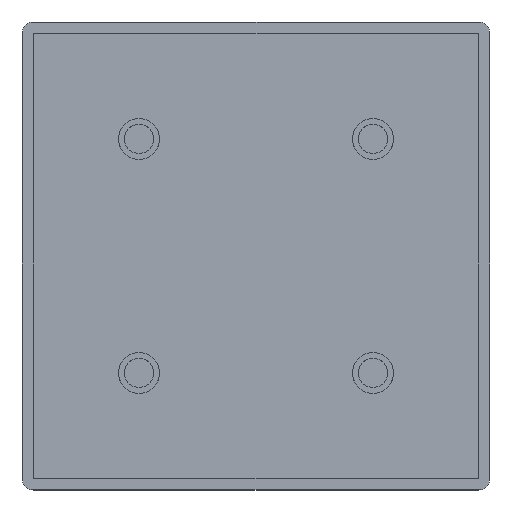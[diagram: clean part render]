
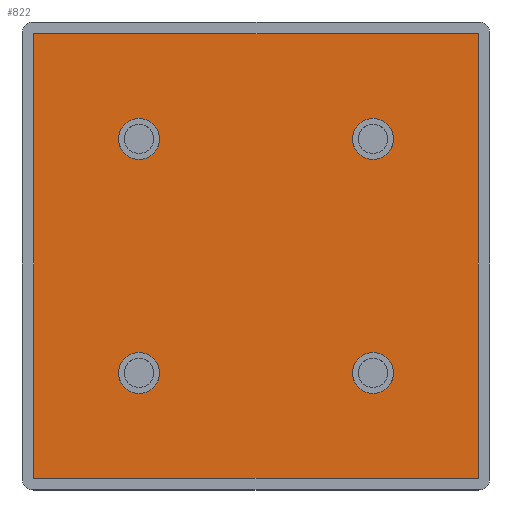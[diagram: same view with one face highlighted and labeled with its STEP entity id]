
A CAD part, top view. The second image highlights one B-rep face of the part: STEP entity #822.
In plain terms, the highlighted planar face has unit normal (0, 0, 1).
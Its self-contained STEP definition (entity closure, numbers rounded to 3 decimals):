
#7 = CIRCLE ( 'NONE', #1311, 3.5 ) ;
#13 = CIRCLE ( 'NONE', #650, 3.5 ) ;
#27 = DIRECTION ( 'NONE',  ( 1., 0., 0. ) ) ;
#31 = EDGE_CURVE ( 'NONE', #1221, #974, #1136, .T. ) ;
#46 = PLANE ( 'NONE',  #355 ) ;
#47 = VERTEX_POINT ( 'NONE', #1252 ) ;
#79 = EDGE_CURVE ( 'NONE', #47, #1043, #227, .T. ) ;
#81 = DIRECTION ( 'NONE',  ( 0., 0., 1. ) ) ;
#90 = ORIENTED_EDGE ( 'NONE', *, *, #950, .F. ) ;
#95 = CARTESIAN_POINT ( 'NONE',  ( -20., 20., 0. ) ) ;
#100 = CARTESIAN_POINT ( 'NONE',  ( -40., -38., 0. ) ) ;
#102 = AXIS2_PLACEMENT_3D ( 'NONE', #173, #534, #402 ) ;
#117 = CIRCLE ( 'NONE', #978, 3.5 ) ;
#145 = EDGE_CURVE ( 'NONE', #849, #571, #1291, .T. ) ;
#157 = VERTEX_POINT ( 'NONE', #840 ) ;
#167 = DIRECTION ( 'NONE',  ( 0., 0., 1. ) ) ;
#173 = CARTESIAN_POINT ( 'NONE',  ( 20., 20., 0. ) ) ;
#175 = ORIENTED_EDGE ( 'NONE', *, *, #79, .F. ) ;
#203 = DIRECTION ( 'NONE',  ( 0., 1., 0. ) ) ;
#227 = CIRCLE ( 'NONE', #102, 3.5 ) ;
#228 = EDGE_LOOP ( 'NONE', ( #956, #90 ) ) ;
#239 = LINE ( 'NONE', #100, #436 ) ;
#243 = EDGE_CURVE ( 'NONE', #1043, #47, #117, .T. ) ;
#250 = EDGE_LOOP ( 'NONE', ( #1270, #175 ) ) ;
#257 = EDGE_LOOP ( 'NONE', ( #747, #757 ) ) ;
#267 = VERTEX_POINT ( 'NONE', #1314 ) ;
#272 = DIRECTION ( 'NONE',  ( 1., 0., 0. ) ) ;
#297 = CARTESIAN_POINT ( 'NONE',  ( 20., -20., 0. ) ) ;
#304 = ORIENTED_EDGE ( 'NONE', *, *, #388, .T. ) ;
#333 = EDGE_CURVE ( 'NONE', #671, #157, #463, .T. ) ;
#335 = CARTESIAN_POINT ( 'NONE',  ( 38., 40., 0. ) ) ;
#355 = AXIS2_PLACEMENT_3D ( 'NONE', #1229, #1095, #952 ) ;
#377 = AXIS2_PLACEMENT_3D ( 'NONE', #95, #1284, #1143 ) ;
#388 = EDGE_CURVE ( 'NONE', #571, #671, #239, .T. ) ;
#402 = DIRECTION ( 'NONE',  ( 1., 0., 0. ) ) ;
#404 = DIRECTION ( 'NONE',  ( 0., 0., 1. ) ) ;
#424 = CARTESIAN_POINT ( 'NONE',  ( -16.5, -20., 0. ) ) ;
#436 = VECTOR ( 'NONE', #1290, 1000. ) ;
#463 = LINE ( 'NONE', #335, #876 ) ;
#495 = DIRECTION ( 'NONE',  ( 1., 0., 0. ) ) ;
#520 = EDGE_LOOP ( 'NONE', ( #1218, #304, #938, #832 ) ) ;
#529 = ORIENTED_EDGE ( 'NONE', *, *, #641, .F. ) ;
#534 = DIRECTION ( 'NONE',  ( 0., 0., 1. ) ) ;
#536 = CARTESIAN_POINT ( 'NONE',  ( 20., -20., 0. ) ) ;
#539 = CARTESIAN_POINT ( 'NONE',  ( -23.5, -20., 0. ) ) ;
#555 = AXIS2_PLACEMENT_3D ( 'NONE', #297, #167, #27 ) ;
#561 = DIRECTION ( 'NONE',  ( 1., 0., 0. ) ) ;
#570 = CARTESIAN_POINT ( 'NONE',  ( 16.5, 20., 0. ) ) ;
#571 = VERTEX_POINT ( 'NONE', #1110 ) ;
#573 = CARTESIAN_POINT ( 'NONE',  ( 38., -38., 0. ) ) ;
#575 = VERTEX_POINT ( 'NONE', #969 ) ;
#607 = DIRECTION ( 'NONE',  ( 0., -1., 0. ) ) ;
#612 = DIRECTION ( 'NONE',  ( -1., 0., 0. ) ) ;
#634 = DIRECTION ( 'NONE',  ( 0., 0., 1. ) ) ;
#641 = EDGE_CURVE ( 'NONE', #974, #1221, #1236, .T. ) ;
#650 = AXIS2_PLACEMENT_3D ( 'NONE', #1018, #81, #1265 ) ;
#655 = AXIS2_PLACEMENT_3D ( 'NONE', #1210, #1075, #930 ) ;
#671 = VERTEX_POINT ( 'NONE', #573 ) ;
#685 = VECTOR ( 'NONE', #612, 1000. ) ;
#696 = DIRECTION ( 'NONE',  ( 0., 0., 1. ) ) ;
#716 = FACE_BOUND ( 'NONE', #1032, .T. ) ;
#733 = VERTEX_POINT ( 'NONE', #539 ) ;
#744 = FACE_OUTER_BOUND ( 'NONE', #520, .T. ) ;
#745 = CARTESIAN_POINT ( 'NONE',  ( -38., 40., 0. ) ) ;
#747 = ORIENTED_EDGE ( 'NONE', *, *, #959, .F. ) ;
#750 = CARTESIAN_POINT ( 'NONE',  ( -40., 38., 0. ) ) ;
#757 = ORIENTED_EDGE ( 'NONE', *, *, #775, .F. ) ;
#763 = EDGE_CURVE ( 'NONE', #157, #849, #881, .T. ) ;
#769 = CARTESIAN_POINT ( 'NONE',  ( -20., 20., 0. ) ) ;
#775 = EDGE_CURVE ( 'NONE', #909, #733, #13, .T. ) ;
#782 = FACE_BOUND ( 'NONE', #257, .T. ) ;
#822 = ADVANCED_FACE ( 'NONE', ( #744, #716, #782, #846, #913 ), #46, .T. ) ;
#826 = CARTESIAN_POINT ( 'NONE',  ( 20., 20., 0. ) ) ;
#832 = ORIENTED_EDGE ( 'NONE', *, *, #763, .T. ) ;
#840 = CARTESIAN_POINT ( 'NONE',  ( 38., 38., 0. ) ) ;
#846 = FACE_BOUND ( 'NONE', #250, .T. ) ;
#849 = VERTEX_POINT ( 'NONE', #1165 ) ;
#876 = VECTOR ( 'NONE', #203, 1000. ) ;
#881 = LINE ( 'NONE', #750, #685 ) ;
#909 = VERTEX_POINT ( 'NONE', #424 ) ;
#913 = FACE_BOUND ( 'NONE', #228, .T. ) ;
#930 = DIRECTION ( 'NONE',  ( 1., 0., 0. ) ) ;
#936 = ORIENTED_EDGE ( 'NONE', *, *, #31, .F. ) ;
#938 = ORIENTED_EDGE ( 'NONE', *, *, #333, .T. ) ;
#950 = EDGE_CURVE ( 'NONE', #267, #575, #1026, .T. ) ;
#952 = DIRECTION ( 'NONE',  ( 1., 0., 0. ) ) ;
#956 = ORIENTED_EDGE ( 'NONE', *, *, #1064, .F. ) ;
#959 = EDGE_CURVE ( 'NONE', #733, #909, #1132, .T. ) ;
#969 = CARTESIAN_POINT ( 'NONE',  ( 16.5, -20., 0. ) ) ;
#974 = VERTEX_POINT ( 'NONE', #1178 ) ;
#978 = AXIS2_PLACEMENT_3D ( 'NONE', #826, #696, #561 ) ;
#1018 = CARTESIAN_POINT ( 'NONE',  ( -20., -20., 0. ) ) ;
#1026 = CIRCLE ( 'NONE', #555, 3.5 ) ;
#1032 = EDGE_LOOP ( 'NONE', ( #529, #936 ) ) ;
#1043 = VERTEX_POINT ( 'NONE', #570 ) ;
#1064 = EDGE_CURVE ( 'NONE', #575, #267, #7, .T. ) ;
#1075 = DIRECTION ( 'NONE',  ( 0., 0., 1. ) ) ;
#1085 = VECTOR ( 'NONE', #607, 1000. ) ;
#1095 = DIRECTION ( 'NONE',  ( 0., 0., 1. ) ) ;
#1110 = CARTESIAN_POINT ( 'NONE',  ( -38., -38., 0. ) ) ;
#1132 = CIRCLE ( 'NONE', #655, 3.5 ) ;
#1136 = CIRCLE ( 'NONE', #377, 3.5 ) ;
#1143 = DIRECTION ( 'NONE',  ( 1., 0., 0. ) ) ;
#1160 = CARTESIAN_POINT ( 'NONE',  ( -16.5, 20., 0. ) ) ;
#1165 = CARTESIAN_POINT ( 'NONE',  ( -38., 38., 0. ) ) ;
#1169 = AXIS2_PLACEMENT_3D ( 'NONE', #769, #634, #495 ) ;
#1178 = CARTESIAN_POINT ( 'NONE',  ( -23.5, 20., 0. ) ) ;
#1210 = CARTESIAN_POINT ( 'NONE',  ( -20., -20., 0. ) ) ;
#1218 = ORIENTED_EDGE ( 'NONE', *, *, #145, .T. ) ;
#1221 = VERTEX_POINT ( 'NONE', #1160 ) ;
#1229 = CARTESIAN_POINT ( 'NONE',  ( 0., 0., 0. ) ) ;
#1236 = CIRCLE ( 'NONE', #1169, 3.5 ) ;
#1252 = CARTESIAN_POINT ( 'NONE',  ( 23.5, 20., 0. ) ) ;
#1265 = DIRECTION ( 'NONE',  ( 1., 0., 0. ) ) ;
#1270 = ORIENTED_EDGE ( 'NONE', *, *, #243, .F. ) ;
#1284 = DIRECTION ( 'NONE',  ( 0., 0., 1. ) ) ;
#1290 = DIRECTION ( 'NONE',  ( 1., 0., 0. ) ) ;
#1291 = LINE ( 'NONE', #745, #1085 ) ;
#1311 = AXIS2_PLACEMENT_3D ( 'NONE', #536, #404, #272 ) ;
#1314 = CARTESIAN_POINT ( 'NONE',  ( 23.5, -20., 0. ) ) ;
